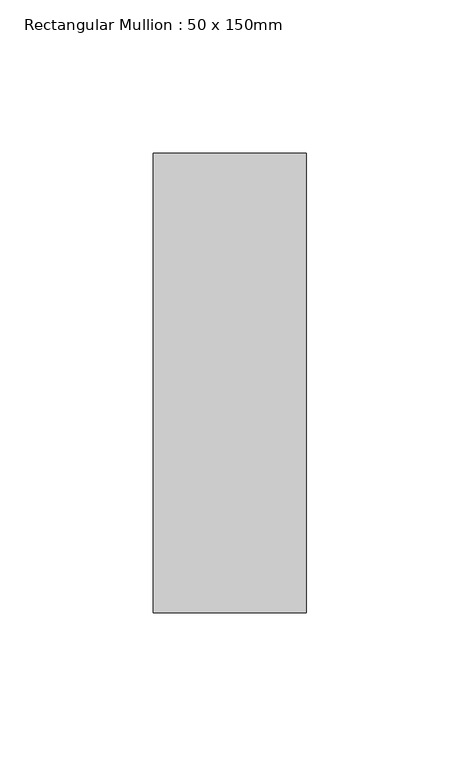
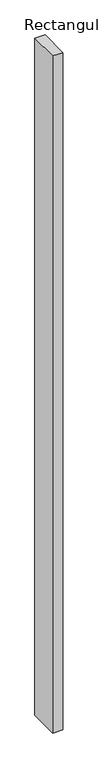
"""IFC4 building model written with IfcOpenShell, lengths in millimetres: member geometry, Rectangular Mullion : 50 x 150mm."""

from ifc_helpers import new_model, si_unit, frame, origin, place, context, project, spatial, polyline, outline, extrude, source, transform, mapped, element, save


def rectangular_mullion_50_x_150mm_8a594f5d(model_context):
    return source(origin(), model_context, "Body", "SweptSolid", [
        extrude(outline(polyline([(0.0, 75.0), (0.0, -75.0), (-50.0, -75.0), (-50.0, 75.0), (0.0, 75.0)])), frame((0.0, 0.0, -3495.0), z_axis=(0.0, 0.0, 1.0), x_axis=(1.0, 0.0, 0.0)), (0.0, 0.0, 1.0), 3495.0),
    ])


if __name__ == "__main__":
    model = new_model("IFC4")
    model_context = context("Model", 3, world=origin())
    ifc_project = project(units=[si_unit("LENGTHUNIT", "METRE", prefix="MILLI")], contexts=[model_context])
    site = spatial("IfcSite", under=ifc_project)
    building = spatial("IfcBuilding", under=site)
    placement = place(None, origin())
    rectangular_mullion_50_x_150mm_shape = rectangular_mullion_50_x_150mm_8a594f5d(model_context)
    element("IfcMember", 1, ObjectType="Rectangular Mullion : 50 x 150mm", at=placement, inside=building, context=model_context, shape_type="MappedRepresentation", body=[
        mapped(rectangular_mullion_50_x_150mm_shape, transform((0.0, 0.0, 0.0), x_axis=(1.0, 0.0, 0.0), y_axis=(0.0, 1.0, 0.0), z_axis=(0.0, 0.0, 1.0))),
    ])
    save(model, "model.ifc")
